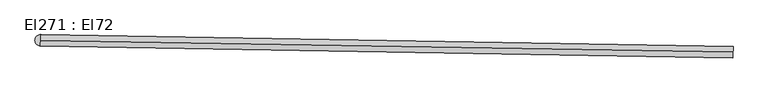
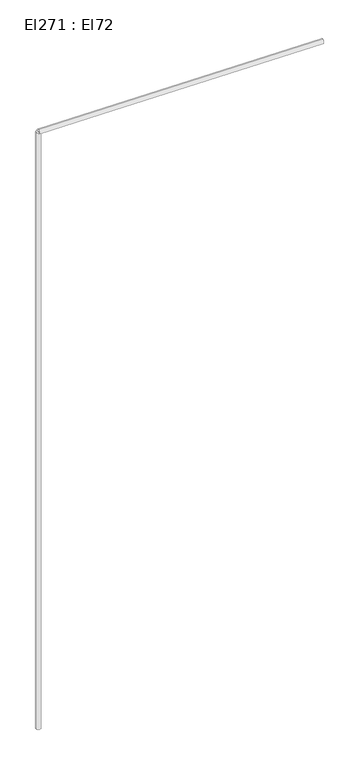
"""IFC4 building model written with IfcOpenShell, lengths in millimetres: cable carrier segment geometry, El271 : El72."""

import ifcopenshell
import ifcopenshell.guid

model = None  # the IFC model being written
_history = None  # IfcOwnerHistory: only IFC2X3 demands one
_inside = {}  # id of a spatial element -> (the spatial element, [elements in it])
_under = {}  # id of a project, library or spatial element -> (it, [spatial elements below it])
_declared = {}  # id of a project -> (the project, [libraries it declares])
_typed = {}  # id of a type object -> (the type object, [elements of that type])
_made_of = {}  # id of a material, layer set ... -> (it, [elements and type objects made of it])


def new_model(schema):
    """Start an empty IFC model of exactly this schema.

    Asked for "IFC4X3", IfcOpenShell would pick the latest addendum, in which some entities
    have other attributes; the version numbers below select the first issue.
    IFC2X3 requires an IfcOwnerHistory on every rooted entity: one is made here for all.
    """
    global model, _history
    if schema == "IFC4X3":
        model = ifcopenshell.file(schema_version=(4, 3, 0, 0))
    else:
        model = ifcopenshell.file(schema=schema)
    _inside.clear()
    _under.clear()
    _declared.clear()
    _typed.clear()
    _made_of.clear()
    _history = None
    if model.schema == "IFC2X3":
        org = make("IfcOrganization", Name="unknown")
        user = make(
            "IfcPersonAndOrganization",
            ThePerson=make("IfcPerson", FamilyName="unknown"),
            TheOrganization=org,
        )
        app = make(
            "IfcApplication",
            ApplicationDeveloper=org,
            Version="unknown",
            ApplicationFullName="unknown",
            ApplicationIdentifier="unknown",
        )
        _history = make(
            "IfcOwnerHistory",
            OwningUser=user,
            OwningApplication=app,
            ChangeAction="ADDED",
            CreationDate=0,
        )
    return model


def make(cls, **values):
    """One entity of the class cls with the attributes given. An attribute that is None is left unset."""
    return model.create_entity(
        cls, **{name: value for name, value in values.items() if value is not None}
    )


def rooted(cls, **values):
    """An entity with a GlobalId (a new one), such as an element, a storey or a relation."""
    return make(cls, GlobalId=ifcopenshell.guid.new(), OwnerHistory=_history, **values)


def si_unit(unit_type, name, prefix=None):
    """IfcSIUnit, for example si_unit("LENGTHUNIT", "METRE", prefix="MILLI")."""
    return make("IfcSIUnit", UnitType=unit_type, Prefix=prefix, Name=name)


def assignment(units):
    """IfcUnitAssignment: the units of a project."""
    return None if units is None else make("IfcUnitAssignment", Units=units)


def point(xyz):
    """IfcCartesianPoint."""
    return None if xyz is None else make("IfcCartesianPoint", Coordinates=xyz)


def direction(xyz):
    """IfcDirection."""
    return None if xyz is None else make("IfcDirection", DirectionRatios=xyz)


def frame(location, z_axis=None, x_axis=None):
    """IfcAxis2Placement3D, a coordinate frame: its origin and axes. An axis left out is left unset."""
    return make(
        "IfcAxis2Placement3D",
        Location=point(location),
        Axis=direction(z_axis),
        RefDirection=direction(x_axis),
    )


def frame_2d(location, x_axis=None):
    """IfcAxis2Placement2D, a coordinate frame in the plane: its origin and x axis."""
    return make(
        "IfcAxis2Placement2D", Location=point(location), RefDirection=direction(x_axis)
    )


def origin():
    """The frame at (0, 0, 0) with its axes left unset."""
    return frame((0.0, 0.0, 0.0))


def place(relative_to, where):
    """IfcLocalPlacement: puts the frame where relative to a parent placement (None: the world)."""
    return make(
        "IfcLocalPlacement", PlacementRelTo=relative_to, RelativePlacement=where
    )


def context(
    kind, dimensions, precision=None, world=None, true_north=None, identifier=None
):
    """IfcGeometricRepresentationContext, for example the 3D "Model" context."""
    return make(
        "IfcGeometricRepresentationContext",
        ContextIdentifier=identifier,
        ContextType=kind,
        CoordinateSpaceDimension=dimensions,
        Precision=precision,
        WorldCoordinateSystem=world,
        TrueNorth=true_north,
    )


def project(units=None, contexts=None):
    """IfcProject with its units and contexts."""
    return rooted(
        "IfcProject",
        Name="project",
        RepresentationContexts=contexts,
        UnitsInContext=assignment(units),
    )


def spatial(cls, under=None, at=None, **own):
    """A site, building, storey or space (cls), placed at a placement, below another one or the project."""
    s = rooted(cls, ObjectPlacement=at, **own)
    if under is not None:
        _under.setdefault(under.id(), (under, []))[1].append(s)
    return s


def circle_curve(where, radius):
    """IfcCircle in the frame where."""
    return make("IfcCircle", Position=where, Radius=radius)


def trimmed(basis, trim1, trim2, sense, master):
    """IfcTrimmedCurve: the piece of a basis curve between two trims."""
    return make(
        "IfcTrimmedCurve",
        BasisCurve=basis,
        Trim1=trim1,
        Trim2=trim2,
        SenseAgreement=sense,
        MasterRepresentation=master,
    )


def segment(curve, same_sense, transition):
    """IfcCompositeCurveSegment."""
    return make(
        "IfcCompositeCurveSegment",
        Transition=transition,
        SameSense=same_sense,
        ParentCurve=curve,
    )


def composite_curve(segments, self_intersect=None):
    """IfcCompositeCurve: segments joined end to end."""
    return make("IfcCompositeCurve", Segments=segments, SelfIntersect=self_intersect)


def outline(outer, holes=None, kind="AREA"):
    """IfcArbitraryClosedProfileDef: a profile drawn as a closed curve; with holes, ...WithVoids."""
    if holes is None:
        return make("IfcArbitraryClosedProfileDef", ProfileType=kind, OuterCurve=outer)
    return make(
        "IfcArbitraryProfileDefWithVoids",
        ProfileType=kind,
        OuterCurve=outer,
        InnerCurves=holes,
    )


def extrude(swept, where, along, depth):
    """IfcExtrudedAreaSolid: the profile swept, set in the frame where, extruded along a direction by depth."""
    return make(
        "IfcExtrudedAreaSolid",
        SweptArea=swept,
        Position=where,
        ExtrudedDirection=direction(along),
        Depth=depth,
    )


def shape(context_of_items, identifier, shape_type, items):
    """IfcShapeRepresentation: the items that make up one representation, for example the "Body"."""
    return make(
        "IfcShapeRepresentation",
        ContextOfItems=context_of_items,
        RepresentationIdentifier=identifier,
        RepresentationType=shape_type,
        Items=items,
    )


def source(mapping_origin, context_of_items, identifier, shape_type, items):
    """IfcRepresentationMap: a shape defined once, which mapped items show again and again."""
    return make(
        "IfcRepresentationMap",
        MappingOrigin=mapping_origin,
        MappedRepresentation=shape(context_of_items, identifier, shape_type, items),
    )


def transform(
    local_origin,
    x_axis=None,
    y_axis=None,
    z_axis=None,
    scale=None,
    scale2=None,
    scale3=None,
    uniform=True,
):
    """IfcCartesianTransformationOperator3D, or its non-uniform kind. x_axis, y_axis, z_axis: its Axis1, 2, 3."""
    if uniform:
        return make(
            "IfcCartesianTransformationOperator3D",
            Axis1=direction(x_axis),
            Axis2=direction(y_axis),
            LocalOrigin=point(local_origin),
            Scale=scale,
            Axis3=direction(z_axis),
        )
    return make(
        "IfcCartesianTransformationOperator3DnonUniform",
        Axis1=direction(x_axis),
        Axis2=direction(y_axis),
        LocalOrigin=point(local_origin),
        Scale=scale,
        Axis3=direction(z_axis),
        Scale2=scale2,
        Scale3=scale3,
    )


def mapped(mapping_source, mapping_target):
    """IfcMappedItem: shows the shape of a source again, moved by a transform."""
    return make(
        "IfcMappedItem", MappingSource=mapping_source, MappingTarget=mapping_target
    )


def made_of(thing, what):
    """Note that an element or type object is made of a material, layer set ...; save() writes the relation."""
    if what is not None:
        _made_of.setdefault(what.id(), (what, []))[1].append(thing)
    return thing


def element(
    cls,
    number,
    at=None,
    inside=None,
    cuts=None,
    type_object=None,
    material=None,
    context=None,
    identifier="Body",
    shape_type=None,
    held_by="IfcProductDefinitionShape",
    body=None,
    shapes=None,
    **own,
):
    """One element of the class cls, such as IfcWall. Its Tag is "e" and its number.

    at: its placement. inside: the storey or other place that contains it. cuts: it is an
    opening in that element (IfcRelVoidsElement). A single representation is given by context,
    identifier, shape_type and body (its items); several are given by shapes. held_by: the class
    of the entity that holds the representations. save() writes the other relations.
    """
    e = rooted(cls, Tag="e%d" % number, ObjectPlacement=at, **own)
    if body is not None:
        shapes = [shape(context, identifier, shape_type, body)]
    if shapes is not None:
        e.Representation = make(held_by, Representations=shapes)
    if inside is not None:
        _inside.setdefault(inside.id(), (inside, []))[1].append(e)
    if cuts is not None:
        rooted(
            "IfcRelVoidsElement", RelatingBuildingElement=cuts, RelatedOpeningElement=e
        )
    if type_object is not None:
        _typed.setdefault(type_object.id(), (type_object, []))[1].append(e)
    return made_of(e, material)


def aggregate(whole, parts):
    """IfcRelAggregates: a whole, such as a stair, and the parts it consists of."""
    return rooted("IfcRelAggregates", RelatingObject=whole, RelatedObjects=parts)


def save(model, path):
    """Write the relations noted so far, then the file.

    IfcRelAggregates (storeys below a building ...), IfcRelContainedInSpatialStructure (elements
    in a storey), IfcRelDefinesByType, IfcRelAssociatesMaterial and IfcRelDeclares: one each for
    every whole, place, type object, material and project.
    """
    for whole, parts in _under.values():
        aggregate(whole, parts)
    for where, things in _inside.values():
        rooted(
            "IfcRelContainedInSpatialStructure",
            RelatedElements=things,
            RelatingStructure=where,
        )
    for kind, things in _typed.values():
        rooted("IfcRelDefinesByType", RelatedObjects=things, RelatingType=kind)
    for what, things in _made_of.values():
        rooted("IfcRelAssociatesMaterial", RelatedObjects=things, RelatingMaterial=what)
    for by, libraries in _declared.values():
        rooted("IfcRelDeclares", RelatingContext=by, RelatedDefinitions=libraries)
    model.write(path)


def el271_el72_d1ce99ee(model_context):
    return source(origin(), model_context, "Body", "SweptSolid", [
        extrude(outline(composite_curve([segment(trimmed(circle_curve(frame_2d((0.0, -9.5)), 9.5), [point((0.0, -19.0))], [point((0.0, 0.0))], False, "CARTESIAN"), True, "CONTINUOUS"), segment(trimmed(circle_curve(frame_2d((0.0, -9.5)), 9.5), [point((0.0, 0.0))], [point((0.0, -19.0))], False, "CARTESIAN"), True, "CONTINUOUS")], self_intersect=False)), frame((16285.5906658, 7908.9177241, 4459.5), z_axis=(-0.9998514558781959, 0.017235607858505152, 0.0), x_axis=(-0.017235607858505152, -0.9998514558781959, 0.0)), (0.0, 0.0, 1.0), 1171.27),
        extrude(outline(composite_curve([segment(trimmed(circle_curve(frame_2d((15114.4946511, 7929.1052745)), 9.5), [point((15104.9946511, 7929.1052745))], [point((15123.9946511, 7929.1052745))], False, "CARTESIAN"), True, "CONTINUOUS"), segment(trimmed(circle_curve(frame_2d((15114.4946511, 7929.1052745)), 9.5), [point((15123.9946511, 7929.1052745))], [point((15104.9946511, 7929.1052745))], False, "CARTESIAN"), True, "CONTINUOUS")], self_intersect=False)), frame((0.0, 0.0, 1830.0), z_axis=(0.0, 0.0, 1.0), x_axis=(1.0, 0.0, 0.0)), (0.0, 0.0, 1.0), 2620.0),
    ])


if __name__ == "__main__":
    model = new_model("IFC4")
    model_context = context("Model", 3, world=origin())
    ifc_project = project(units=[si_unit("LENGTHUNIT", "METRE", prefix="MILLI")], contexts=[model_context])
    site = spatial("IfcSite", under=ifc_project)
    building = spatial("IfcBuilding", under=site)
    placement = place(None, origin())
    el271_el72_shape = el271_el72_d1ce99ee(model_context)
    element("IfcCableCarrierSegment", 1, ObjectType="El271 : El72", at=placement, inside=building, context=model_context, shape_type="MappedRepresentation", body=[
        mapped(el271_el72_shape, transform((0.0, 0.0, 0.0), x_axis=(1.0, 0.0, 0.0), y_axis=(0.0, 1.0, 0.0), z_axis=(0.0, 0.0, 1.0))),
    ])
    save(model, "model.ifc")
